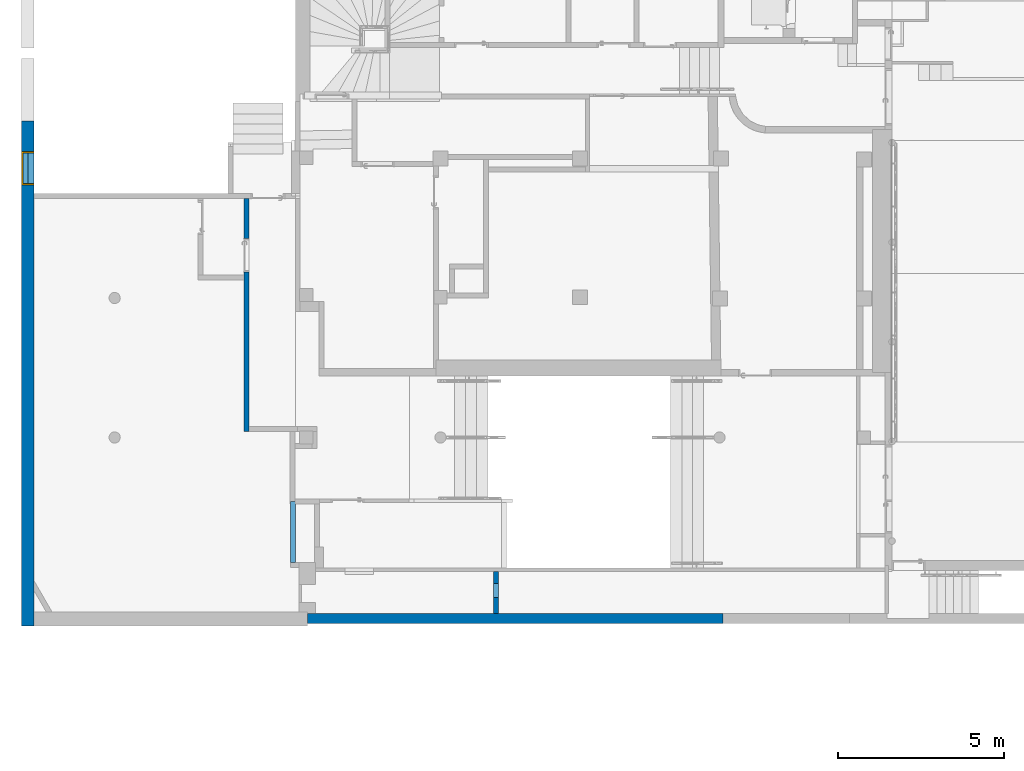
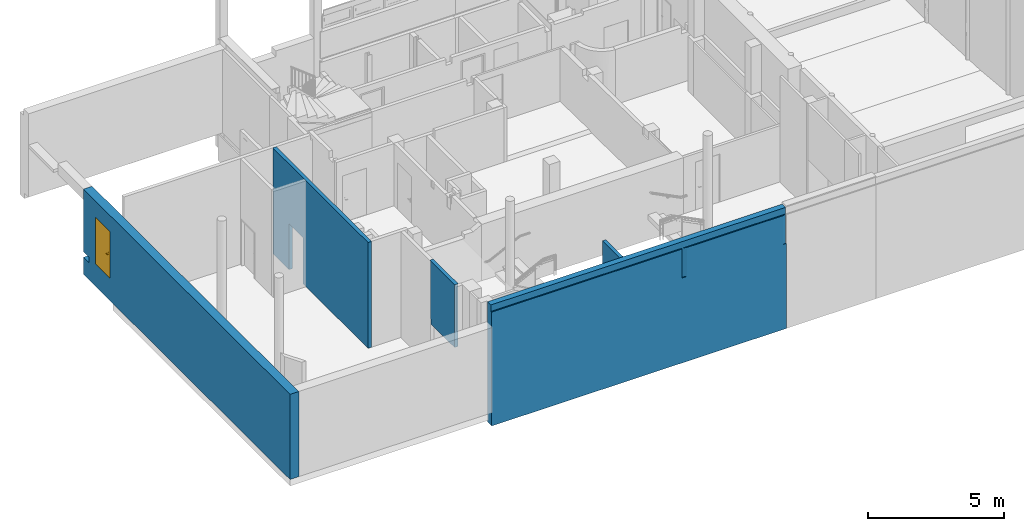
"""IFC4 building model written with IfcOpenShell, lengths in metres."""

from ifc_helpers import new_model, entity, si_unit, converted_unit, derived_unit, direction, frame, origin, place, context, subcontext, project, spatial, indexed_curve, outline, extrude, polygons, source, transform, mapped, material, material_list, layer, layer_set, type_object, type_shapes, element, fill, save


model = new_model("IFC4")

# Units and contexts
model_context = context("Model", 3, precision=1e-05, world=origin(), true_north=direction((6.12303176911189e-17, 1.0)))
body_context = subcontext(model_context, "Body", "Model", "MODEL_VIEW")
ifc_project = project(units=[si_unit("LENGTHUNIT", "METRE"), si_unit("AREAUNIT", "SQUARE_METRE"), si_unit("VOLUMEUNIT", "CUBIC_METRE"), converted_unit("PLANEANGLEUNIT", "DEGREE", entity("IfcRatioMeasure", 0.0174532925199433), si_unit("PLANEANGLEUNIT", "RADIAN"), dimensions=[0, 0, 0, 0, 0, 0, 0]), si_unit("MASSUNIT", "GRAM", prefix="KILO"), derived_unit("MASSDENSITYUNIT", [(si_unit("MASSUNIT", "GRAM", prefix="KILO"), 1), (si_unit("LENGTHUNIT", "METRE"), -3)]), derived_unit("MOMENTOFINERTIAUNIT", [(si_unit("LENGTHUNIT", "METRE"), 4)]), si_unit("TIMEUNIT", "SECOND"), si_unit("FREQUENCYUNIT", "HERTZ"), si_unit("THERMODYNAMICTEMPERATUREUNIT", "DEGREE_CELSIUS"), derived_unit("THERMALTRANSMITTANCEUNIT", [(si_unit("MASSUNIT", "GRAM", prefix="KILO"), 1), (si_unit("THERMODYNAMICTEMPERATUREUNIT", "KELVIN"), -1), (si_unit("TIMEUNIT", "SECOND"), -3)]), derived_unit("VOLUMETRICFLOWRATEUNIT", [(si_unit("LENGTHUNIT", "METRE"), 3), (si_unit("TIMEUNIT", "SECOND"), -1)]), si_unit("ELECTRICCURRENTUNIT", "AMPERE"), si_unit("ELECTRICVOLTAGEUNIT", "VOLT"), si_unit("POWERUNIT", "WATT"), si_unit("FORCEUNIT", "NEWTON", prefix="KILO"), si_unit("ILLUMINANCEUNIT", "LUX"), si_unit("LUMINOUSFLUXUNIT", "LUMEN"), si_unit("LUMINOUSINTENSITYUNIT", "CANDELA"), derived_unit("USERDEFINED", [(si_unit("MASSUNIT", "GRAM", prefix="KILO"), -1), (si_unit("LENGTHUNIT", "METRE"), -2), (si_unit("TIMEUNIT", "SECOND"), 3), (si_unit("LUMINOUSFLUXUNIT", "LUMEN"), 1)]), derived_unit("LINEARVELOCITYUNIT", [(si_unit("LENGTHUNIT", "METRE"), 1), (si_unit("TIMEUNIT", "SECOND"), -1)]), si_unit("PRESSUREUNIT", "PASCAL"), derived_unit("USERDEFINED", [(si_unit("LENGTHUNIT", "METRE"), -2), (si_unit("MASSUNIT", "GRAM", prefix="KILO"), 1), (si_unit("TIMEUNIT", "SECOND"), -2)]), derived_unit("LINEARFORCEUNIT", [(si_unit("MASSUNIT", "GRAM", prefix="KILO"), 1), (si_unit("LENGTHUNIT", "METRE"), 1), (si_unit("TIMEUNIT", "SECOND"), -2), (si_unit("LENGTHUNIT", "METRE"), -1)]), derived_unit("PLANARFORCEUNIT", [(si_unit("MASSUNIT", "GRAM", prefix="KILO"), 1), (si_unit("LENGTHUNIT", "METRE"), 1), (si_unit("TIMEUNIT", "SECOND"), -2), (si_unit("LENGTHUNIT", "METRE"), -2)])], contexts=[model_context])

# Site, building, storey
site_placement = place(None, origin())
site = spatial("IfcSite", under=ifc_project, at=site_placement, Name="Default", CompositionType="ELEMENT")
building_placement = place(site_placement, origin())
building = spatial("IfcBuilding", under=site, at=building_placement, Name="HOTEL CONSULAIRE BOULOGNE SUR MER", CompositionType="ELEMENT")
storey_1_placement = place(building_placement, frame((0.0, 0.0, -5.02343668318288)))
storey_1 = spatial("IfcBuildingStorey", under=building, at=storey_1_placement, Name="SS3", CompositionType="ELEMENT", Elevation=-5.02343668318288)

# Wall, opening
ifc_material_1 = material(Name="Mur par défaut", Category="Divers")
ifc_layer_1 = layer(ifc_material_1, 0.15, Name="Mur par défaut", Category="Divers")
ifc_layer_set_1 = layer_set([ifc_layer_1], Name="Mur de base:Générique - Int. 150 mm")
wall_type_1 = type_object("IfcWallType", Name="Mur de base:Générique - Int. 150 mm", PredefinedType="NOTDEFINED", material=ifc_layer_set_1)
wall_1_placement = place(storey_1_placement, frame((-7.07898856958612, -16.8245842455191, 0.0), z_axis=(0.0, 0.0, 1.0), x_axis=(0.0, -1.0, 0.0)))
wall_1 = element("IfcWall", 1, at=wall_1_placement, inside=storey_1, type_object=wall_type_1, material=ifc_layer_set_1, Name="Mur de base:Générique - Int. 150 mm", ObjectType="Mur de base:Générique - Int. 150 mm", PredefinedType="NOTDEFINED", context=body_context, shape_type="Tessellation", body=[
    polygons([(7.01, 0.075, 0.0), (7.01, -0.0749999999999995, 0.0), (2.44566577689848, -0.0749999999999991, 0.0), (2.29566577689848, -0.0749999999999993, 0.0), (2.21266577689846, -0.0749999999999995, 0.0), (2.21266577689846, 0.075, 0.0), (6.86, 0.0749999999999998, 0.0), (7.01, -0.0749999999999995, 4.75343668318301), (2.44566577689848, -0.0750000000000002, 4.75343668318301), (2.29566577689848, -0.0749999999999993, 4.75343668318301), (0.0, -0.0749999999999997, 4.75343668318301), (2.16573425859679e-15, -0.0749999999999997, 0.0), (1.19266577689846, -0.075, 0.0), (1.19266577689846, -0.075, 2.07500000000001), (2.21266577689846, -0.0749999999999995, 2.07500000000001), (2.16573425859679e-15, 0.0749999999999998, 4.75343668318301), (6.86, 0.0749999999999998, 4.75343668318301), (7.01, 0.075, 4.75343668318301), (2.21266577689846, 0.075, 2.07500000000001), (1.19266577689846, 0.0749999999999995, 2.07500000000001), (1.19266577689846, 0.0749999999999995, 0.0), (2.16573425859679e-15, 0.0749999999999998, 0.0)], [[[4, 5, 6, 7, 1, 2, 3]], [[13, 12, 22, 21]], [[19, 15, 14, 20]], [[14, 15, 5, 4, 3, 2, 8, 9, 10, 11, 12, 13]], [[1, 7, 6, 19, 20, 21, 22, 16, 17, 18]], [[11, 10, 9, 8, 18, 17, 16]], [[22, 12, 11, 16]], [[6, 5, 15, 19]], [[8, 2, 1, 18]], [[20, 14, 13, 21]]], closed=True),
])
opening_1_placement = place(wall_1_placement, frame((2.21266577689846, 0.0749999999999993, 0.0)))
element("IfcOpeningElement", 2, at=opening_1_placement, cuts=wall_1, Name="Int. Simple:Ext 0.95X2.04:1", ObjectType="Opening", PredefinedType="OPENING", context=body_context, shape_type="SweptSolid", body=[
    extrude(outline(indexed_curve([(0.0, 2.16573425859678e-15), (2.07500000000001, 2.16573425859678e-15), (2.07500000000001, 1.02), (0.0, 1.02), (0.0, 2.16573425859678e-15)], self_intersect=False)), frame((0.0, 0.0, 0.0), z_axis=(0.0, -1.0, 0.0), x_axis=(0.0, 0.0, 1.0)), (0.0, 0.0, 1.0), 0.15),
])

# Wall
wall_2_placement = place(storey_1_placement, frame((-5.67698856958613, -25.9457560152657, 1.9328939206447), z_axis=(0.0, 0.0, 1.0), x_axis=(0.0, -1.0, 0.0)))
element("IfcWall", 3, at=wall_2_placement, inside=storey_1, type_object=wall_type_1, material=ifc_layer_set_1, Name="Mur de base:Générique - Int. 150 mm", ObjectType="Mur de base:Générique - Int. 150 mm", PredefinedType="NOTDEFINED", context=body_context, shape_type="Tessellation", body=[
    polygons([(0.0, 0.0750000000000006, 2.82054276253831), (1.82951778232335, 0.075, 2.82054276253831), (1.82951778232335, 0.075, 0.217106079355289), (0.0, 0.0750000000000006, 0.217106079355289), (0.0750000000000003, -0.0749999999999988, 0.0), (1.82951778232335, -0.0749999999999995, 0.0), (1.82951778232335, -0.0749999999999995, 2.82054276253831), (0.0, -0.0749999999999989, 2.82054276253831), (0.0, -0.0749999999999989, 0.217106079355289), (0.0750000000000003, -0.0749999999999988, 0.217106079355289), (1.82951778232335, 0.075, 0.0), (0.0750000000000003, 0.0750000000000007, 0.0), (0.0750000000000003, 0.0750000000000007, 0.117106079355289), (1.82951778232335, 0.075, 0.117106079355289), (0.0, 0.0647828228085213, 2.82054276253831), (0.0, 0.0647828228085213, 0.217106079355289), (1.82951778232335, 0.0647828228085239, 0.217106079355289), (0.0750000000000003, 0.0647828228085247, 0.217106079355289), (0.0750000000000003, 0.0647828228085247, 0.117106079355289), (1.82951778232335, 0.0647828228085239, 0.117106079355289)], [[[2, 3, 4, 1]], [[14, 11, 12, 13]], [[17, 20, 19, 18]], [[10, 5, 6, 7, 8, 9]], [[6, 5, 12, 11]], [[10, 9, 16, 4, 3, 17, 18]], [[8, 7, 2, 1, 15]], [[19, 20, 14, 13]], [[9, 8, 15, 1, 4, 16]], [[19, 13, 12, 5, 10, 18]], [[17, 3, 2, 7, 6, 11, 14, 20]]], closed=True),
])

# Wall, opening
wall_3_placement = place(storey_1_placement, frame((0.444675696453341, -29.3180671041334, 0.0), z_axis=(0.0, 0.0, 1.0), x_axis=(0.0, 1.0, 0.0)))
wall_3 = element("IfcWall", 4, at=wall_3_placement, inside=storey_1, type_object=wall_type_1, material=ifc_layer_set_1, Name="Mur de base:Générique - Int. 150 mm", ObjectType="Mur de base:Générique - Int. 150 mm", PredefinedType="NOTDEFINED", context=body_context, shape_type="Tessellation", body=[
    polygons([(0.0, -0.075, 0.0), (1.2717933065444, -0.075, 0.0), (1.27179330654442, -0.075, 4.75343668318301), (0.0, -0.075, 4.75343668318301), (0.476752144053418, -0.0750000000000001, 1.49878376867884), (0.904495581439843, -0.0750000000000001, 1.49878376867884), (0.904495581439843, -0.0750000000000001, 1.04220369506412), (0.476752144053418, -0.0750000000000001, 1.04220369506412), (1.27179330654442, 0.075, 4.75343668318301), (1.2717933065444, 0.075, 0.0), (4.33146851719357e-15, 0.075, 0.0), (4.33146851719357e-15, 0.075, 4.75343668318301), (0.904495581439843, 0.0749999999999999, 1.49878376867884), (0.476752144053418, 0.0749999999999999, 1.49878376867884), (0.476752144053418, 0.0749999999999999, 1.04220369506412), (0.904495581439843, 0.0749999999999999, 1.04220369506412)], [[[1, 2, 3, 4], [5, 6, 7, 8]], [[10, 11, 12, 9], [13, 14, 15, 16]], [[2, 1, 11, 10]], [[5, 14, 13, 6]], [[4, 3, 9, 12]], [[16, 15, 8, 7]], [[2, 10, 9, 3]], [[8, 15, 14, 5]], [[12, 11, 1, 4]], [[16, 7, 6, 13]]], closed=True),
])
opening_2_placement = place(wall_3_placement, frame((0.476752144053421, 0.075, 1.04220369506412)))
element("IfcOpeningElement", 5, at=opening_2_placement, cuts=wall_3, Name="Mur de base:Générique - Int. 150 mm", ObjectType="Opening", PredefinedType="OPENING", context=body_context, shape_type="SweptSolid", body=[
    extrude(outline(indexed_curve([(-0.228290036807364, -0.213871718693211), (0.228290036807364, -0.213871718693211), (0.228290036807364, 0.213871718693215), (-0.228290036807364, 0.213871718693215), (-0.228290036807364, -0.213871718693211)], self_intersect=False)), frame((0.213871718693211, -0.15, 0.228290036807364), z_axis=(0.0, 1.0, 0.0), x_axis=(0.0, 0.0, -1.0)), (0.0, 0.0, 1.0), 0.15),
])

ifc_layer_2 = layer(ifc_material_1, 0.37, Name="Mur par défaut", Category="Divers")
ifc_layer_set_2 = layer_set([ifc_layer_2], Name="Mur de base:Générique - Ext.370")
wall_type_2 = type_object("IfcWallType", Name="Mur de base:Générique - Ext.370", PredefinedType="NOTDEFINED", material=ifc_layer_set_2)
wall_4_placement = place(storey_1_placement, frame((-13.6603496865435, -29.6880671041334, 0.0), z_axis=(0.0, 0.0, 1.0), x_axis=(0.0, 1.0, 0.0)))
wall_4 = element("IfcWall", 6, at=wall_4_placement, inside=storey_1, type_object=wall_type_2, material=ifc_layer_set_2, Name="Mur de base:Générique - Ext.370", ObjectType="Mur de base:Générique - Ext.370", PredefinedType="NOTDEFINED", context=body_context, shape_type="Tessellation", body=[
    polygons([(12.9384828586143, 1.61669370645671e-15, 1.01340592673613), (13.27049147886, 2.1427244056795e-15, 1.01340592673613), (13.27049147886, -0.185000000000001, 1.01340592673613), (13.0134828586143, -0.185000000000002, 1.01340592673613), (12.9384828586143, -0.185, 1.01340592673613), (15.2047429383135, -0.185, 0.0), (15.2047429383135, 0.185, 0.0), (15.2047429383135, 0.185, 0.763405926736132), (15.2047429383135, -0.185, 0.763405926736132), (0.0, -0.185000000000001, 0.0), (0.42, -0.185, 0.0), (1.0605035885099, -0.185000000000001, 0.0), (1.3605035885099, -0.185000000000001, 0.0), (12.8634828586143, -0.185, 0.0), (13.0134828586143, -0.185, 0.0), (13.0134828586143, -0.185, 0.763405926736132), (12.9384828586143, -0.185, 0.763405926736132), (13.27049147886, -0.185000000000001, 3.08840592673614), (14.29049147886, -0.185, 3.08840592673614), (14.29049147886, -0.185, 1.01340592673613), (14.44149147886, -0.184999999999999, 1.01340592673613), (14.59149147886, -0.185000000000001, 1.01340592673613), (15.2047429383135, -0.185, 1.01340592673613), (15.2047429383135, -0.185, 3.35455163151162), (15.2047429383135, -0.185, 3.82384855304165), (0.42, -0.185, 3.82384855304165), (0.0, -0.185000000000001, 3.82384855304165), (13.0134828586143, 0.185000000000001, 0.0), (4.33146851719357e-15, 0.185, 0.0), (4.33146851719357e-15, 0.185, 1.01340592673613), (0.0, 0.185, 3.70965261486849), (0.0, 0.185, 3.82384855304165), (15.2047429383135, 0.185, 3.82384855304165), (15.2047429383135, 0.185, 3.35455163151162), (15.2047429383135, 0.185, 1.01340592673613), (14.95049147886, 0.185, 1.01340592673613), (14.80049147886, 0.184999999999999, 1.01340592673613), (14.80049147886, 0.184999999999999, 0.763405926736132), (14.29049147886, 0.185000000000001, 1.01340592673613), (14.29049147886, 0.185000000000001, 3.08840592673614), (13.27049147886, 0.184999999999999, 3.08840592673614), (13.27049147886, 0.184999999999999, 1.01340592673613), (15.2047429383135, -0.115000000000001, 1.01340592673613), (14.80049147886, 2.35370567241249e-16, 0.763405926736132), (12.9384828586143, 1.61669370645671e-15, 0.763405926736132), (14.29049147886, 1.59306659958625e-15, 1.01340592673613), (14.80049147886, 2.35370567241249e-16, 1.01340592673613)], [[[1, 2, 3, 4, 5]], [[29, 28, 7, 6, 15, 14, 13, 12, 11, 10]], [[47, 37, 36, 35, 43, 23, 22, 21, 20, 46]], [[41, 40, 19, 18]], [[9, 6, 7, 8]], [[24, 23, 43, 35, 34, 33, 25]], [[1, 5, 17, 45]], [[47, 44, 38, 37]], [[42, 41, 18, 3, 2]], [[26, 27, 10, 11, 12, 13, 14, 15, 6, 9, 16, 17, 5, 4, 3, 18, 19, 20, 21, 22, 23, 24, 25]], [[46, 2, 1, 45, 44, 47]], [[8, 7, 28, 29, 30, 31, 32, 33, 34, 35, 36, 37, 38], [39, 40, 41, 42]], [[26, 25, 33, 32, 27]], [[38, 44, 45, 17, 16, 9, 8]], [[39, 42, 2, 46]], [[32, 31, 30, 29, 10, 27]], [[40, 39, 46, 20, 19]]], closed=True),
])
opening_3_placement = place(wall_4_placement, frame((13.27049147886, -0.185, 1.01340592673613)))
opening_3 = element("IfcOpeningElement", 7, at=opening_3_placement, cuts=wall_4, Name="Int. Simple:Ext 0.95X2.04:1", ObjectType="Opening", PredefinedType="OPENING", context=body_context, shape_type="SweptSolid", body=[
    extrude(outline(indexed_curve([(0.0, 1.02), (0.0, 0.0), (2.07500000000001, 0.0), (2.07500000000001, 1.02), (0.0, 1.02)], self_intersect=False)), frame((0.0, 0.0, 0.0), z_axis=(0.0, 1.0, 0.0), x_axis=(0.0, 0.0, 1.0)), (0.0, 0.0, 1.0), 0.37),
])

# Storey
storey_2_placement = place(building_placement, frame((0.0, 0.0, -4.01003075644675)))
storey_2 = spatial("IfcBuildingStorey", under=building, at=storey_2_placement, Name="SS2", CompositionType="ELEMENT", Elevation=-4.01003075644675)

# Door
ifc_material_2 = material(Name="Acier inoxydable", Category="Métal")
ifc_material_list = material_list([ifc_material_2, ifc_material_2, ifc_material_2, ifc_material_2])
door_type = type_object("IfcDoorType", Name="Int. Simple:Ext 0.95X2.04", OperationType="NOTDEFINED", PredefinedType="DOOR", material=ifc_material_list)
shared_shape = source(origin(), body_context, "Body", "Tessellation", [
    polygons([(1.01500000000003, -0.0050000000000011, 0.870000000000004), (1.01500000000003, -0.0050000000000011, 1.08), (1.00535276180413, -0.0050000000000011, 1.08399601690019), (0.99500000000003, -0.0050000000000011, 1.08535898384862), (0.984647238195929, -0.00500000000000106, 1.08399601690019), (0.97500000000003, -0.00500000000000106, 1.08), (0.975000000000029, -0.00500000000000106, 0.870000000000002), (0.984647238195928, -0.00500000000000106, 0.866003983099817), (0.995000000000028, -0.0050000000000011, 0.86464101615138), (1.00535276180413, -0.0050000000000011, 0.866003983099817), (1.01500000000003, -1.11670672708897e-15, 0.870000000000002), (1.00535276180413, -1.11670672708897e-15, 0.866003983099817), (0.995000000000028, -1.11670672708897e-15, 0.86464101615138), (0.984647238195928, -1.08286712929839e-15, 0.866003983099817), (0.975000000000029, -1.08286712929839e-15, 0.870000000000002), (0.97500000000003, -1.08286712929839e-15, 1.08), (0.984647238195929, -1.08286712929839e-15, 1.08399601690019), (0.99500000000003, -1.11670672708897e-15, 1.08535898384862), (1.00535276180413, -1.11670672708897e-15, 1.08399601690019), (1.01500000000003, -1.11670672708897e-15, 1.08)], [[[1, 2, 3, 4, 5, 6, 7, 8, 9, 10]], [[20, 11, 12, 13, 14, 15, 16, 17, 18, 19]], [[10, 12, 11, 1]], [[9, 13, 12, 10]], [[8, 14, 13, 9]], [[8, 7, 15, 14]], [[15, 7, 6, 16]], [[5, 17, 16, 6]], [[4, 18, 17, 5]], [[3, 19, 18, 4]], [[3, 2, 20, 19]], [[11, 20, 2, 1]]], closed=True),
    polygons([(0.97500000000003, 0.0399999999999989, 1.08), (0.975000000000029, 0.0399999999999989, 0.870000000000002), (0.984647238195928, 0.0399999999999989, 0.866003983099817), (0.995000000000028, 0.0399999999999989, 0.86464101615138), (1.00535276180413, 0.0399999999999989, 0.866003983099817), (1.01500000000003, 0.0399999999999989, 0.870000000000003), (1.01500000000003, 0.0399999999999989, 1.08), (1.00535276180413, 0.0399999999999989, 1.08399601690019), (0.99500000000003, 0.0399999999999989, 1.08535898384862), (0.984647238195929, 0.0399999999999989, 1.08399601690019), (0.97500000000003, 0.0449999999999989, 1.08), (0.984647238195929, 0.0449999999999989, 1.08399601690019), (0.99500000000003, 0.0449999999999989, 1.08535898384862), (1.00535276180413, 0.0449999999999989, 1.08399601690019), (1.01500000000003, 0.0449999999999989, 1.08), (1.01500000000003, 0.0449999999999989, 0.870000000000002), (1.00535276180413, 0.0449999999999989, 0.866003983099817), (0.995000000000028, 0.0449999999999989, 0.86464101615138), (0.984647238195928, 0.0449999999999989, 0.866003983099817), (0.975000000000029, 0.0449999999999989, 0.870000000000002)], [[[6, 7, 8, 9, 10, 1, 2, 3, 4, 5]], [[13, 14, 15, 16, 17, 18, 19, 20, 11, 12]], [[10, 12, 11, 1]], [[9, 13, 12, 10]], [[8, 14, 13, 9]], [[8, 7, 15, 14]], [[16, 15, 7, 6]], [[5, 17, 16, 6]], [[4, 18, 17, 5]], [[3, 19, 18, 4]], [[3, 2, 20, 19]], [[20, 2, 1, 11]]], closed=True),
    polygons([(1.00100000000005, -0.00500000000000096, 1.00699999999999), (1.00100000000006, -0.00500000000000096, 0.992999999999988), (0.997025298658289, -0.00500000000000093, 0.99221955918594), (0.99297470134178, -0.00500000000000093, 0.992219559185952), (0.989000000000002, -0.00500000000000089, 0.993000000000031), (0.989000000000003, -0.00500000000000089, 1.007), (0.992974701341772, -0.00500000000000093, 1.00778044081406), (0.997025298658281, -0.00500000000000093, 1.00778044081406), (0.989000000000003, -0.0276803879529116, 1.007), (0.992974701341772, -0.029326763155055, 1.00778044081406), (0.997025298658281, -0.0310045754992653, 1.00778044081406), (1.00100000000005, -0.0326509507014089, 1.007), (0.989000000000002, -0.0276803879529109, 0.993000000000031), (1.00100000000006, -0.0326509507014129, 0.992999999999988), (0.997025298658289, -0.0310045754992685, 0.99221955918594), (0.99297470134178, -0.0293267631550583, 0.992219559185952), (0.977652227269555, -0.0390281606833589, 1.007), (0.979298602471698, -0.0430028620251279, 1.00778044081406), (0.980976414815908, -0.0470534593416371, 1.00778044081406), (0.982622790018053, -0.0510281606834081, 1.007), (0.977652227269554, -0.0390281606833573, 0.993000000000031), (0.982622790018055, -0.0510281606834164, 0.992999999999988), (0.980976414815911, -0.047053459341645, 0.99221955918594), (0.979298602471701, -0.0430028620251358, 0.992219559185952), (0.894981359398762, -0.0510281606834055, 1.007), (0.894981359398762, -0.0470534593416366, 1.00778044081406), (0.894981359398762, -0.0430028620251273, 1.00778044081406), (0.894981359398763, -0.0390281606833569, 1.00699999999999), (0.894981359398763, -0.0390281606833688, 0.993000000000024), (0.894981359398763, -0.0430028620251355, 0.992219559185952), (0.894981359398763, -0.0470534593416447, 0.99221955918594), (0.894981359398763, -0.0510281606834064, 0.992999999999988), (0.942692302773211, -0.051028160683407, 1.007), (0.937139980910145, -0.045028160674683, 1.0078786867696), (0.936316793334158, -0.039028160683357, 1.007), (0.942692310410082, -0.0510281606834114, 0.992999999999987), (0.937139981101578, -0.0450281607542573, 0.992121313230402), (0.936316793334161, -0.039028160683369, 0.993000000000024)], [[[7, 8, 1, 2, 3, 4, 5, 6]], [[17, 21, 38, 29, 28, 35]], [[1, 8, 11, 12]], [[8, 7, 10, 18, 19, 11]], [[7, 6, 9, 10]], [[13, 9, 6, 5]], [[25, 26, 27, 28, 29, 30, 31, 32]], [[4, 16, 13, 5]], [[4, 3, 15, 23, 24, 16]], [[2, 14, 15, 3]], [[12, 14, 2, 1]], [[12, 11, 19, 20]], [[10, 9, 17, 18]], [[21, 17, 9, 13]], [[13, 16, 24, 21]], [[15, 14, 22, 23]], [[20, 22, 14, 12]], [[34, 26, 33]], [[33, 26, 25]], [[33, 20, 19]], [[18, 35, 34]], [[35, 18, 17]], [[28, 27, 35]], [[34, 27, 26]], [[34, 35, 27]], [[34, 33, 19]], [[18, 34, 19]], [[37, 30, 38]], [[31, 37, 36]], [[24, 38, 21]], [[30, 29, 38]], [[31, 36, 32]], [[36, 23, 22]], [[37, 23, 36]], [[37, 24, 23]], [[37, 38, 24]], [[30, 37, 31]], [[22, 20, 33, 25, 32, 36]]], closed=True),
    polygons([(0.989000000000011, 0.0449999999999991, 0.993000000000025), (0.992974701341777, 0.044999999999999, 0.992219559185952), (0.997025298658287, 0.044999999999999, 0.99221955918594), (1.00100000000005, 0.044999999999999, 0.992999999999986), (1.00100000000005, 0.044999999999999, 1.007), (0.997025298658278, 0.044999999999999, 1.00778044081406), (0.992974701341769, 0.044999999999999, 1.00778044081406), (0.988999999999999, 0.0449999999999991, 1.007), (0.988999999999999, 0.067485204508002, 1.007), (0.988999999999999, 0.067485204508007, 0.993000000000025), (1.00100000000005, 0.0724557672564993, 1.007), (0.997025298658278, 0.0708093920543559, 1.00778044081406), (0.992974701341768, 0.0691315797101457, 1.00778044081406), (1.00100000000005, 0.0724557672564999, 0.992999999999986), (0.992974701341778, 0.0691315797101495, 0.992219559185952), (0.997025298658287, 0.0708093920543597, 0.99221955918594), (0.97751471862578, 0.0789704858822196, 1.007), (0.977514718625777, 0.0789704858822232, 0.993000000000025), (0.982485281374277, 0.0909704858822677, 1.007), (0.980838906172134, 0.0869957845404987, 1.00778044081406), (0.979161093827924, 0.0829451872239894, 1.00778044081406), (0.982485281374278, 0.0909704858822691, 0.992999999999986), (0.979161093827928, 0.0829451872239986, 0.992219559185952), (0.980838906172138, 0.0869957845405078, 0.99221955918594), (0.894954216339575, 0.0789704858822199, 0.993000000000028), (0.894954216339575, 0.078970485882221, 1.007), (0.894954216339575, 0.08294518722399, 1.00778044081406), (0.894954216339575, 0.0869957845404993, 1.00778044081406), (0.894954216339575, 0.0909704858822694, 1.007), (0.894954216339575, 0.0909704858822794, 0.992999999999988), (0.894954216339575, 0.086995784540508, 0.99221955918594), (0.894954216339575, 0.0829451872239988, 0.992219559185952), (0.94255479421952, 0.0909704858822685, 1.007), (0.937057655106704, 0.0849704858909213, 1.0078786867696), (0.936234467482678, 0.0789704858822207, 1.007), (0.942554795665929, 0.0909704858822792, 0.992999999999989), (0.937057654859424, 0.0849704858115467, 0.992121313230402), (0.936234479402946, 0.0789704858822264, 0.993000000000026)], [[[2, 3, 4, 5, 6, 7, 8, 1]], [[18, 17, 35, 26, 25, 38]], [[9, 10, 1, 8]], [[27, 28, 29, 30, 31, 32, 25, 26]], [[7, 13, 9, 8]], [[7, 6, 12, 20, 21, 13]], [[5, 11, 12, 6]], [[11, 5, 4, 14]], [[4, 3, 16, 14]], [[3, 2, 15, 23, 24, 16]], [[2, 1, 10, 15]], [[17, 18, 10, 9]], [[9, 13, 21, 17]], [[11, 19, 20, 12]], [[22, 19, 11, 14]], [[14, 16, 24, 22]], [[15, 10, 18, 23]], [[34, 27, 35]], [[28, 34, 33]], [[21, 35, 17]], [[27, 26, 35]], [[28, 33, 29]], [[33, 20, 19]], [[34, 20, 33]], [[34, 21, 20]], [[34, 35, 21]], [[27, 34, 28]], [[19, 22, 36, 30, 29, 33]], [[37, 31, 36]], [[36, 31, 30]], [[36, 22, 24]], [[23, 38, 37]], [[38, 23, 18]], [[25, 32, 38]], [[37, 32, 31]], [[37, 38, 32]], [[37, 36, 24]], [[23, 37, 24]]], closed=True),
    polygons([(1.05500000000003, 0.04, 2.04), (1.05500000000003, 0.04, 0.0), (0.105000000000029, 0.04, 0.0), (0.105000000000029, 0.04, 2.04), (1.05500000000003, 0.0, 2.04), (0.105000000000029, 0.0, 2.04), (0.105000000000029, 0.0, 0.0), (1.05500000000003, 0.0, 0.0)], [[[4, 1, 2, 3]], [[5, 6, 7, 8]], [[5, 1, 4, 6]], [[6, 4, 3, 7]], [[7, 3, 2, 8]], [[8, 2, 1, 5]]], closed=True),
    polygons([(1.09000000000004, -6.76791955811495e-17, 0.0), (1.05500000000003, -6.76791955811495e-17, 0.0), (1.05500000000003, 0.040000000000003, 0.0), (1.04000000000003, 0.040000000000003, 0.0), (1.04000000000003, 0.370000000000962, 0.0), (1.09000000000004, 0.370000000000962, 0.0), (1.09000000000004, 0.370000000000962, 2.07500000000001), (1.09000000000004, -6.76791955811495e-17, 2.07500000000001), (1.04000000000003, 0.370000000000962, 2.025), (0.120000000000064, 0.370000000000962, 2.02499999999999), (0.120000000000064, 0.370000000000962, -4.03399441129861e-24), (0.0700000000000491, 0.370000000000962, 0.0), (0.0700000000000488, 0.370000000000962, 2.07500000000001), (1.04000000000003, 0.040000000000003, 2.025), (1.05500000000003, 0.040000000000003, 2.04), (0.105000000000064, 0.040000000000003, 2.04), (0.105000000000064, 0.040000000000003, -4.10371669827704e-24), (0.120000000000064, 0.040000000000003, -1.38450562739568e-24), (0.120000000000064, 0.040000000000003, 2.025), (1.05500000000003, -6.76791955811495e-17, 2.04), (0.0700000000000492, -6.76791955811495e-17, 2.07500000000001), (0.0700000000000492, -6.76791955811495e-17, -2.45203524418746e-24), (0.105000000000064, -6.76791955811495e-17, -8.70076159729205e-25), (0.105000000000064, -6.76791955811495e-17, 2.04)], [[[5, 6, 1, 2, 3, 4]], [[17, 23, 22, 12, 11, 18]], [[19, 10, 9, 14]], [[24, 16, 15, 20]], [[8, 1, 6, 7]], [[11, 10, 19, 18]], [[17, 16, 24, 23]], [[9, 10, 11, 12, 13, 7, 6, 5]], [[9, 5, 4, 14]], [[15, 3, 2, 20]], [[22, 21, 13, 12]], [[19, 14, 4, 3, 15, 16, 17, 18]], [[24, 20, 2, 1, 8, 21, 22, 23]], [[13, 21, 8, 7]]], closed=True),
    polygons([(1.07500000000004, 0.370000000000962, 0.0), (1.07500000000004, 0.375000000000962, 0.0), (1.10500000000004, 0.375000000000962, 0.0), (1.10500000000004, 0.370000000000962, 0.0), (1.10500000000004, 0.370000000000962, 2.09000000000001), (0.0550000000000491, 0.370000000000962, 2.09000000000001), (0.0550000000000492, 0.370000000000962, 3.21152985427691e-24), (0.0850000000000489, 0.370000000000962, 7.44135198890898e-25), (0.0850000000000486, 0.370000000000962, 2.06000000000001), (1.07500000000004, 0.370000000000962, 2.06000000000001), (1.10500000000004, 0.375000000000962, 2.09000000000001), (1.07500000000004, 0.375000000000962, 2.06000000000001), (0.085000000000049, 0.375000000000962, 2.06000000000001), (0.0850000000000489, 0.375000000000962, 5.65531304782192e-24), (0.0550000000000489, 0.375000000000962, 4.82535527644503e-25), (0.0550000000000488, 0.375000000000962, 2.09000000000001)], [[[2, 3, 4, 1]], [[7, 15, 14, 8]], [[9, 13, 12, 10]], [[9, 10, 1, 4, 5, 6, 7, 8]], [[5, 4, 3, 11]], [[8, 14, 13, 9]], [[12, 13, 14, 15, 16, 11, 3, 2]], [[12, 2, 1, 10]], [[15, 7, 6, 16]], [[16, 6, 5, 11]]], closed=True),
    polygons([(1.07500000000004, -0.00500000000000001, 0.0), (1.07500000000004, -6.76791955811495e-17, 0.0), (1.10500000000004, -6.76791955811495e-17, 0.0), (1.10500000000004, -0.00500000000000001, 0.0), (0.0850000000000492, -0.00500000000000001, 0.0), (0.0550000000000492, -0.00500000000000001, 0.0), (0.0550000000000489, -6.76791955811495e-17, 0.0), (0.0850000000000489, -6.76791955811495e-17, 0.0), (1.10500000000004, -0.00500000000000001, 2.09000000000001), (0.0550000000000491, -0.00500000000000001, 2.09000000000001), (0.0850000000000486, -0.00500000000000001, 2.06000000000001), (1.07500000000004, -0.00500000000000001, 2.06000000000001), (1.10500000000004, -6.76791955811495e-17, 2.09000000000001), (1.07500000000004, -6.76791955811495e-17, 2.06000000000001), (0.085000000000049, -6.76791955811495e-17, 2.06000000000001), (0.0550000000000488, -6.76791955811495e-17, 2.09000000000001)], [[[2, 3, 4, 1]], [[6, 7, 8, 5]], [[11, 15, 14, 12]], [[11, 12, 1, 4, 9, 10, 6, 5]], [[13, 9, 4, 3]], [[5, 8, 15, 11]], [[14, 15, 8, 7, 16, 13, 3, 2]], [[14, 2, 1, 12]], [[7, 6, 10, 16]], [[16, 10, 9, 13]]], closed=True),
])
type_shapes(door_type, [shared_shape])
door_placement = place(opening_3_placement, frame((1.09000000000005, 0.369999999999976, 0.0), z_axis=(0.0, 0.0, 1.0), x_axis=(-1.0, 0.0, 0.0)))
door = element("IfcDoor", 8, at=door_placement, inside=storey_2, type_object=door_type, material=ifc_material_2, Name="Int. Simple:Ext 0.95X2.04", ObjectType="Int. Simple:Ext 0.95X2.04", OperationType="NOTDEFINED", OverallHeight=2.07500000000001, OverallWidth=1.02, PredefinedType="DOOR", context=body_context, shape_type="MappedRepresentation", body=[
    mapped(shared_shape, transform((0.0, 0.0, 0.0), scale=1.0)),
])

fill(opening_3, door)

# Wall
ifc_layer_3 = layer(ifc_material_1, 0.3, Name="Mur par défaut", Category="Divers")
ifc_layer_set_3 = layer_set([ifc_layer_3], Name="Mur de base:Générique - Ext. 300 mm")
wall_type_3 = type_object("IfcWallType", Name="Mur de base:Générique - Ext. 300 mm", PredefinedType="NOTDEFINED", material=ifc_layer_set_3)
wall_5_placement = place(storey_1_placement, frame((-5.24468938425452, -29.4680671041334, -0.649999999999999)))
element("IfcWall", 9, at=wall_5_placement, inside=storey_1, type_object=wall_type_3, material=ifc_layer_set_3, Name="Mur de base:Générique - Ext. 300 mm", ObjectType="Mur de base:Générique - Ext. 300 mm", PredefinedType="NOTDEFINED", context=body_context, shape_type="Tessellation", body=[
    polygons([(2.21123505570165e-15, -0.0960000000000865, 5.4034366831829), (2.21123505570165e-15, -0.0960000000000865, 5.1134366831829), (8.10210702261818, -0.0960000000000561, 5.1134366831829), (8.10210702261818, -0.0960000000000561, 5.4034366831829), (2.43877688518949e-15, -0.150000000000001, 5.1134366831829), (8.08419392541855, -0.150000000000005, 5.1134366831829), (2.43877688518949e-15, -0.150000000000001, 0.0), (12.5168265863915, -0.150000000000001, 0.0), (12.5168265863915, -0.150000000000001, 3.81497109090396), (12.3868429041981, -0.150000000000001, 3.81497109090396), (12.3868429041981, -0.150000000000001, 5.1134366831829), (8.29862135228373, -0.150000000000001, 5.1134366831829), (8.29862135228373, -0.150000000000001, 3.81497109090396), (8.08419392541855, -0.150000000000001, 3.81497109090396), (12.5168265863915, 0.150000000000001, 0.0), (3.34038986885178e-15, 0.150000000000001, 0.0), (3.34038986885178e-15, 0.150000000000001, 0.649999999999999), (-9.91078648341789e-16, 0.150000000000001, 5.4034366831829), (0.250000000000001, 0.150000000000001, 5.4034366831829), (5.61436508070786, 0.150000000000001, 5.4034366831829), (5.76436508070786, 0.150000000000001, 5.4034366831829), (12.5168265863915, 0.150000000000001, 5.4034366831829), (12.5168265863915, -0.0960000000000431, 5.4034366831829), (12.5168265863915, -0.0960000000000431, 5.1134366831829), (12.5168265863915, -0.108031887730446, 5.1134366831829), (12.5168265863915, -0.108031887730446, 3.81497109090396), (1.46961724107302e-15, 0.0800000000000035, 5.4034366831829), (8.10545059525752, -0.0859206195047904, 5.4034366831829), (8.13583543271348, -0.0960000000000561, 5.4034366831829), (8.13583543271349, -0.0960000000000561, 5.1134366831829), (8.10545059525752, -0.0859206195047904, 3.81497109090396)], [[[2, 3, 4, 1]], [[7, 8, 9, 10, 11, 12, 13, 14, 6, 5]], [[30, 24, 23, 29]], [[5, 6, 3, 2]], [[28, 29, 23, 22, 21, 20, 19, 18, 27, 1, 4]], [[12, 11, 25, 24, 30]], [[10, 9, 26]], [[31, 14, 13]], [[15, 16, 17, 18, 19, 20, 21, 22]], [[8, 7, 16, 15]], [[8, 15, 22, 23, 24, 25, 26, 9]], [[11, 10, 26, 25]], [[28, 4, 3, 6, 14, 31]], [[12, 30, 29, 28, 31, 13]], [[17, 16, 7, 5, 2, 1, 27, 18]]], closed=True),
])

save(model, "model.ifc")
